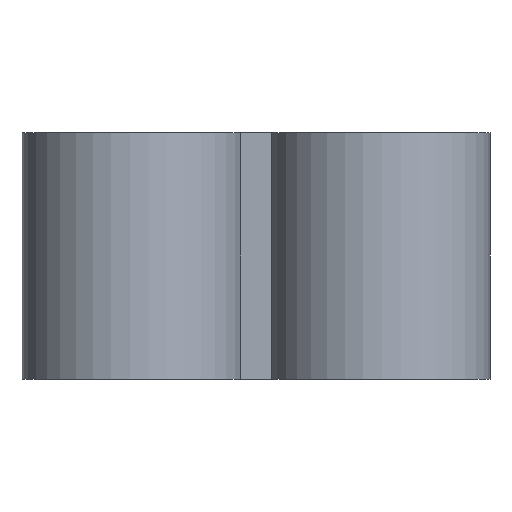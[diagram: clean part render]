
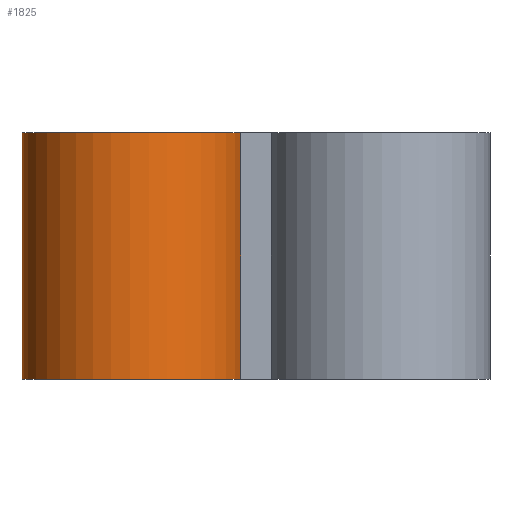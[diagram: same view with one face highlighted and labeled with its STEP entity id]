
A CAD part, front view. The second image highlights one B-rep face of the part: STEP entity #1825.
In plain terms, the highlighted cylindrical face has radius 3.6 mm (diameter 7.2 mm), a partial arc.
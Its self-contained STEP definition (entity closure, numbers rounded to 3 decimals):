
#125=LINE('',#2939,#259);
#163=LINE('',#3134,#297);
#165=LINE('',#3138,#299);
#169=LINE('',#3147,#303);
#259=VECTOR('',#2287,1000.);
#297=VECTOR('',#2461,1000.);
#299=VECTOR('',#2465,1000.);
#303=VECTOR('',#2473,1000.);
#596=ORIENTED_EDGE('',*,*,#979,.T.);
#597=ORIENTED_EDGE('',*,*,#1063,.T.);
#598=ORIENTED_EDGE('',*,*,#1070,.T.);
#599=ORIENTED_EDGE('',*,*,#1074,.T.);
#600=ORIENTED_EDGE('',*,*,#1075,.F.);
#601=ORIENTED_EDGE('',*,*,#1076,.F.);
#602=ORIENTED_EDGE('',*,*,#1068,.T.);
#603=ORIENTED_EDGE('',*,*,#1077,.F.);
#979=EDGE_CURVE('',#1229,#1230,#125,.T.);
#1063=EDGE_CURVE('',#1230,#1301,#1420,.T.);
#1068=EDGE_CURVE('',#1304,#1303,#163,.T.);
#1070=EDGE_CURVE('',#1301,#1305,#165,.T.);
#1074=EDGE_CURVE('',#1305,#1307,#1422,.T.);
#1075=EDGE_CURVE('',#1308,#1307,#169,.T.);
#1076=EDGE_CURVE('',#1304,#1308,#1423,.T.);
#1077=EDGE_CURVE('',#1229,#1303,#1424,.T.);
#1229=VERTEX_POINT('',#2936);
#1230=VERTEX_POINT('',#2938);
#1301=VERTEX_POINT('',#3125);
#1303=VERTEX_POINT('',#3133);
#1304=VERTEX_POINT('',#3135);
#1305=VERTEX_POINT('',#3139);
#1307=VERTEX_POINT('',#3146);
#1308=VERTEX_POINT('',#3148);
#1420=CIRCLE('',#2029,3.6);
#1422=CIRCLE('',#2034,3.6);
#1423=CIRCLE('',#2035,3.6);
#1424=CIRCLE('',#2036,3.6);
#1508=EDGE_LOOP('',(#596,#597,#598,#599,#600,#601,#602,#603));
#1648=FACE_BOUND('',#1508,.T.);
#1748=CYLINDRICAL_SURFACE('',#2033,3.6);
#1825=ADVANCED_FACE('',(#1648),#1748,.T.);
#2029=AXIS2_PLACEMENT_3D('',#3126,#2452,#2453);
#2033=AXIS2_PLACEMENT_3D('',#3144,#2469,#2470);
#2034=AXIS2_PLACEMENT_3D('',#3145,#2471,#2472);
#2035=AXIS2_PLACEMENT_3D('',#3149,#2474,#2475);
#2036=AXIS2_PLACEMENT_3D('',#3150,#2476,#2477);
#2287=DIRECTION('',(0.,0.,-1.));
#2452=DIRECTION('',(0.,0.,-1.));
#2453=DIRECTION('',(-1.,0.,0.));
#2461=DIRECTION('',(0.,0.,-1.));
#2465=DIRECTION('',(0.,0.,-1.));
#2469=DIRECTION('',(0.,0.,-1.));
#2470=DIRECTION('',(-1.,0.,0.));
#2471=DIRECTION('',(0.,0.,1.));
#2472=DIRECTION('',(1.,0.,0.));
#2473=DIRECTION('',(0.,0.,-1.));
#2474=DIRECTION('',(0.,0.,1.));
#2475=DIRECTION('',(1.,0.,0.));
#2476=DIRECTION('',(0.,0.,-1.));
#2477=DIRECTION('',(-1.,0.,0.));
#2936=CARTESIAN_POINT('',(-4.,3.6,3.6));
#2938=CARTESIAN_POINT('',(-4.,3.6,-3.6));
#2939=CARTESIAN_POINT('',(-4.,3.6,3.6));
#3125=CARTESIAN_POINT('',(-0.49,0.8,-3.6));
#3126=CARTESIAN_POINT('',(-4.,0.,-3.6));
#3133=CARTESIAN_POINT('',(-0.49,0.8,3.6));
#3134=CARTESIAN_POINT('',(-0.49,0.8,4.));
#3135=CARTESIAN_POINT('',(-0.49,0.8,4.));
#3138=CARTESIAN_POINT('',(-0.49,0.8,4.));
#3139=CARTESIAN_POINT('',(-0.49,0.8,-4.));
#3144=CARTESIAN_POINT('',(-4.,0.,4.));
#3145=CARTESIAN_POINT('',(-4.,0.,-4.));
#3146=CARTESIAN_POINT('',(-0.49,-0.8,-4.));
#3147=CARTESIAN_POINT('',(-0.49,-0.8,4.));
#3148=CARTESIAN_POINT('',(-0.49,-0.8,4.));
#3149=CARTESIAN_POINT('',(-4.,0.,4.));
#3150=CARTESIAN_POINT('',(-4.,0.,3.6));
